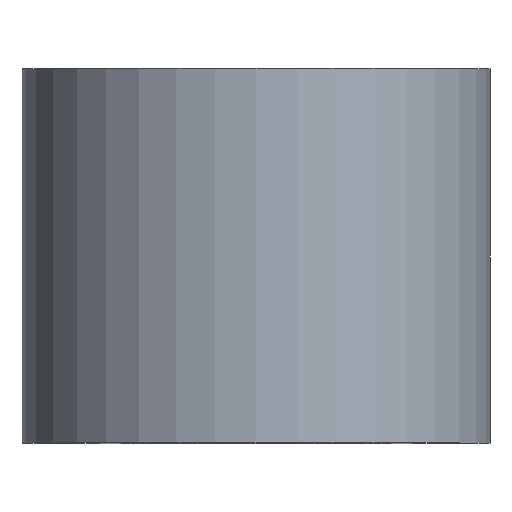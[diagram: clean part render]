
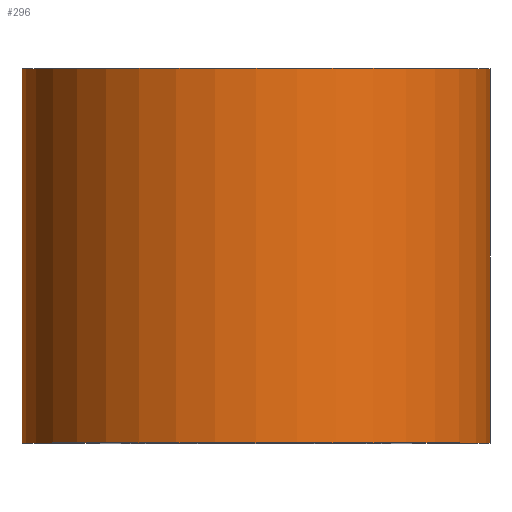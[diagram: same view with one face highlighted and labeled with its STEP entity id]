
A CAD part, top view. The second image highlights one B-rep face of the part: STEP entity #296.
In plain terms, the highlighted cylindrical face has radius 7.5 mm (diameter 15 mm), a partial arc.
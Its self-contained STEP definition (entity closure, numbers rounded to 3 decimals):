
#5 = CARTESIAN_POINT ( 'NONE',  ( -7.5, 12., 0. ) ) ;
#7 = ORIENTED_EDGE ( 'NONE', *, *, #10, .F. ) ;
#10 = EDGE_CURVE ( 'NONE', #155, #98, #39, .T. ) ;
#13 = DIRECTION ( 'NONE',  ( 0., 1., 0. ) ) ;
#19 = EDGE_CURVE ( 'NONE', #98, #53, #245, .T. ) ;
#21 = FACE_OUTER_BOUND ( 'NONE', #258, .T. ) ;
#30 = DIRECTION ( 'NONE',  ( 0., 1., 0. ) ) ;
#39 = LINE ( 'NONE', #139, #259 ) ;
#40 = DIRECTION ( 'NONE',  ( -1., 0., 0. ) ) ;
#47 = LINE ( 'NONE', #197, #52 ) ;
#52 = VECTOR ( 'NONE', #13, 1000. ) ;
#53 = VERTEX_POINT ( 'NONE', #108 ) ;
#56 = CARTESIAN_POINT ( 'NONE',  ( 0., 12., 0. ) ) ;
#70 = DIRECTION ( 'NONE',  ( 0., 1., 0. ) ) ;
#86 = AXIS2_PLACEMENT_3D ( 'NONE', #56, #207, #103 ) ;
#92 = DIRECTION ( 'NONE',  ( -1., 0., 0. ) ) ;
#98 = VERTEX_POINT ( 'NONE', #5 ) ;
#103 = DIRECTION ( 'NONE',  ( -1., 0., 0. ) ) ;
#108 = CARTESIAN_POINT ( 'NONE',  ( 7.5, 12., 0. ) ) ;
#120 = DIRECTION ( 'NONE',  ( 0., 1., 0. ) ) ;
#139 = CARTESIAN_POINT ( 'NONE',  ( -7.5, 0., 0. ) ) ;
#152 = AXIS2_PLACEMENT_3D ( 'NONE', #174, #120, #40 ) ;
#155 = VERTEX_POINT ( 'NONE', #214 ) ;
#169 = ORIENTED_EDGE ( 'NONE', *, *, #19, .F. ) ;
#174 = CARTESIAN_POINT ( 'NONE',  ( 0., 0., 0. ) ) ;
#191 = CARTESIAN_POINT ( 'NONE',  ( 7.5, 0., 0. ) ) ;
#197 = CARTESIAN_POINT ( 'NONE',  ( 7.5, 0., 0. ) ) ;
#203 = AXIS2_PLACEMENT_3D ( 'NONE', #268, #70, #92 ) ;
#207 = DIRECTION ( 'NONE',  ( 0., 1., 0. ) ) ;
#214 = CARTESIAN_POINT ( 'NONE',  ( -7.5, 0., 0. ) ) ;
#218 = ORIENTED_EDGE ( 'NONE', *, *, #276, .T. ) ;
#224 = VERTEX_POINT ( 'NONE', #191 ) ;
#245 = CIRCLE ( 'NONE', #86, 7.5 ) ;
#248 = ORIENTED_EDGE ( 'NONE', *, *, #267, .T. ) ;
#258 = EDGE_LOOP ( 'NONE', ( #218, #248, #169, #7 ) ) ;
#259 = VECTOR ( 'NONE', #30, 1000. ) ;
#267 = EDGE_CURVE ( 'NONE', #224, #53, #47, .T. ) ;
#268 = CARTESIAN_POINT ( 'NONE',  ( 0., 0., 0. ) ) ;
#270 = CIRCLE ( 'NONE', #152, 7.5 ) ;
#276 = EDGE_CURVE ( 'NONE', #155, #224, #270, .T. ) ;
#281 = CYLINDRICAL_SURFACE ( 'NONE', #203, 7.5 ) ;
#296 = ADVANCED_FACE ( 'NONE', ( #21 ), #281, .T. ) ;
